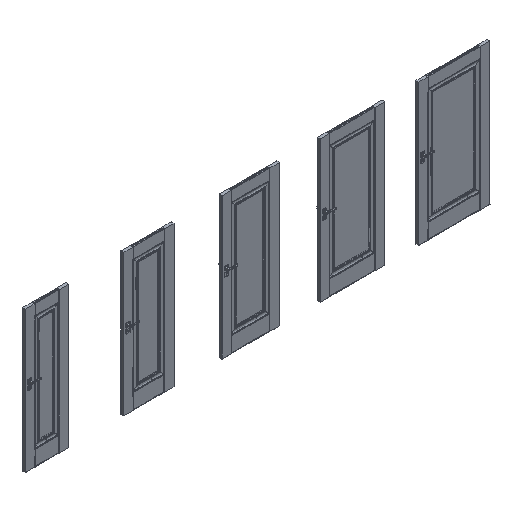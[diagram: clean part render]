
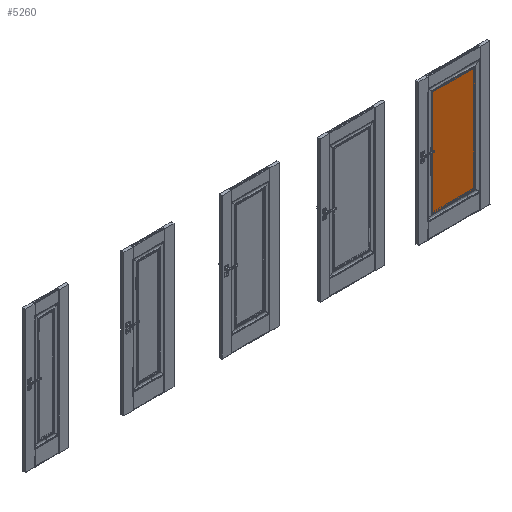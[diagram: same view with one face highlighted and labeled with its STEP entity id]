
A CAD part, isometric view. The second image highlights one B-rep face of the part: STEP entity #5260.
In plain terms, the highlighted planar face has unit normal (0, -1, 0).
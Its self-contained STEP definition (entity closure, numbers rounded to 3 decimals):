
#3326=FACE_OUTER_BOUND('',#9599,.T.);
#5260=ADVANCED_FACE('',(#3326),#6484,.F.);
#6484=PLANE('',#36070);
#9599=EDGE_LOOP('',(#18147,#18148,#18149,#18150));
#18147=ORIENTED_EDGE('',*,*,#26720,.F.);
#18148=ORIENTED_EDGE('',*,*,#26721,.F.);
#18149=ORIENTED_EDGE('',*,*,#26722,.F.);
#18150=ORIENTED_EDGE('',*,*,#26723,.F.);
#22171=VERTEX_POINT('',#62665);
#22172=VERTEX_POINT('',#62666);
#22173=VERTEX_POINT('',#62668);
#22174=VERTEX_POINT('',#62670);
#26720=EDGE_CURVE('',#22171,#22172,#30176,.T.);
#26721=EDGE_CURVE('',#22173,#22171,#30177,.T.);
#26722=EDGE_CURVE('',#22174,#22173,#30178,.T.);
#26723=EDGE_CURVE('',#22172,#22174,#30179,.T.);
#30176=LINE('',#62664,#33401);
#30177=LINE('',#62667,#33402);
#30178=LINE('',#62669,#33403);
#30179=LINE('',#62671,#33404);
#33401=VECTOR('',#43927,1.);
#33402=VECTOR('',#43928,1.);
#33403=VECTOR('',#43929,1.);
#33404=VECTOR('',#43930,1.);
#36070=AXIS2_PLACEMENT_3D('',#62672,#43931,#43932);
#43927=DIRECTION('',(0.,0.,1.));
#43928=DIRECTION('',(-1.,0.,0.));
#43929=DIRECTION('',(0.,0.,-1.));
#43930=DIRECTION('',(1.,0.,0.));
#43931=DIRECTION('',(0.,1.,0.));
#43932=DIRECTION('',(0.,0.,1.));
#62664=CARTESIAN_POINT('',(5487.,-30.65,1040.));
#62665=CARTESIAN_POINT('',(5487.,-30.65,277.));
#62666=CARTESIAN_POINT('',(5487.,-30.65,1803.));
#62667=CARTESIAN_POINT('',(6000.,-30.65,277.));
#62668=CARTESIAN_POINT('',(6113.,-30.65,277.));
#62669=CARTESIAN_POINT('',(6113.,-30.65,1040.));
#62670=CARTESIAN_POINT('',(6113.,-30.65,1803.));
#62671=CARTESIAN_POINT('',(6000.,-30.65,1803.));
#62672=CARTESIAN_POINT('',(6000.,-30.65,1040.));
